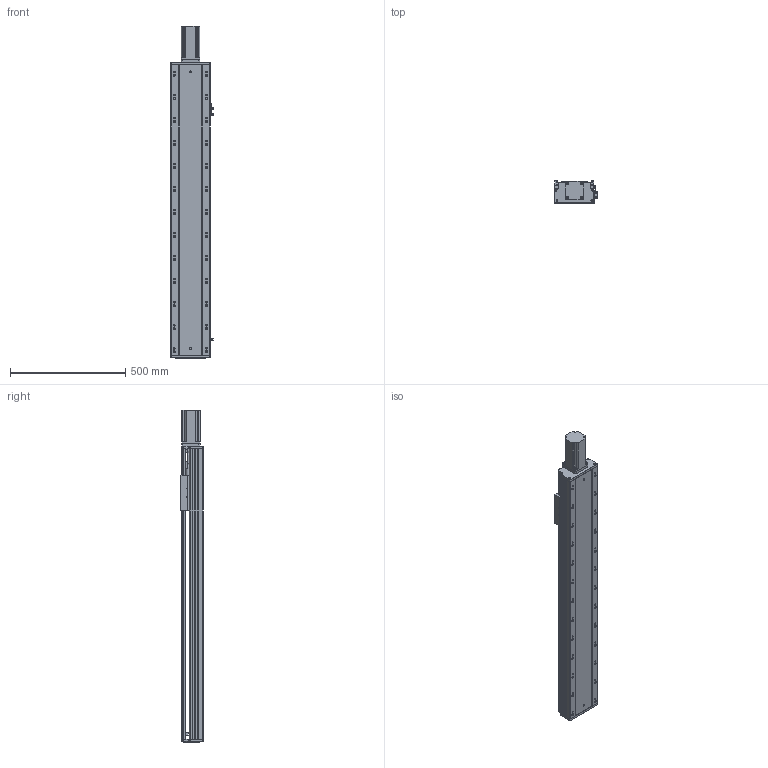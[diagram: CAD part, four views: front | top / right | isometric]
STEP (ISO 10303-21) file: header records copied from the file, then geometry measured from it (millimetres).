
FILE_DESCRIPTION (( 'STEP AP203' ), '1' );
FILE_NAME ('RY170-L2510-300-MK(FK17).SLDASM_950.step', '2022-08-23T02:00:45', ( '' ), ( '' ), 'SwSTEP 2.0', 'SolidWorks 2016', '' );
FILE_SCHEMA (( 'CONFIG_CONTROL_DESIGN' ));
Length unit declared in the file: millimetre
Products named in the file (15): 覜茼ん672; 滅袉蝶18-10; RY170外置感应片(200共用）; RY170-L2510-300-MK(FK17).SLDASM_950; 15; 侂狟750W萇儂ㄗ80遺ㄘ; RY170臏賑輸25佪裝蹟譫; RY170-300倰第菁釱-MK_950; 750W萇儂梓袧蛌諉啣; RY170綴裔啣; 侂狟400W侜督萇儂; RY170-300倰第裔啣-MK_950; 滅袉蝶18-28; RY170电机端支撑座(25丝杆7004轴承)-压铸(FK17); RY170ヶ醱裔啣
Assembly tree (16 placements, depth 3):
  RY170-L2510-300-MK(FK17).SLDASM_950
    RY170-300倰第菁釱-MK_950
    RY170-300倰第裔啣-MK_950
    RY170臏賑輸25佪裝蹟譫
    侂狟400W侜督萇儂
      15
    RY170綴裔啣
    RY170电机端支撑座(25丝杆7004轴承)-压铸(FK17)
    覜茼ん672  x3
    RY170外置感应片(200共用）
    RY170ヶ醱裔啣
    滅袉蝶18-28
    滅袉蝶18-10
    侂狟750W萇儂ㄗ80遺ㄘ
    750W萇儂梓袧蛌諉啣
Bounding box: 183.7 x 97 x 1441 mm (x, y, z)
Volume: 7511292.4 mm3; surface area: 2232545.2 mm2
Topology: 15 solids, 15 shells, 2315 faces, 6787 edges, 4338 vertices
Faces by surface type: cylinder 1014, plane 1014, cone 251, bspline 36
Entity records: 77091 total; most frequent: CARTESIAN_POINT 18674, ORIENTED_EDGE 12266, DIRECTION 11599, EDGE_CURVE 6133, AXIS2_PLACEMENT_3D 4060, VERTEX_POINT 4018, VECTOR 3479, LINE 3479
